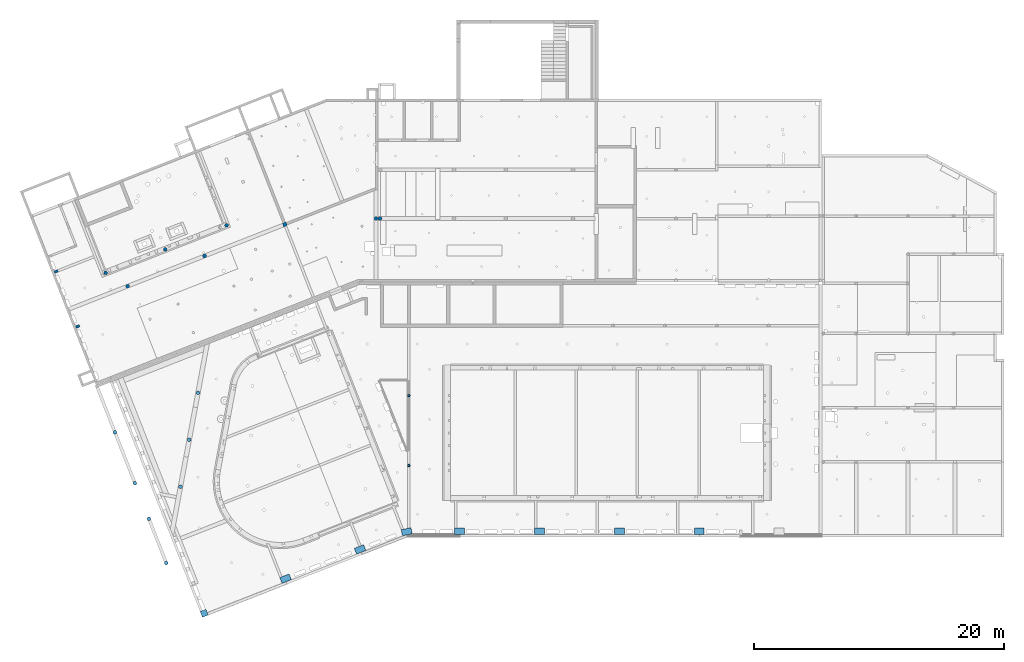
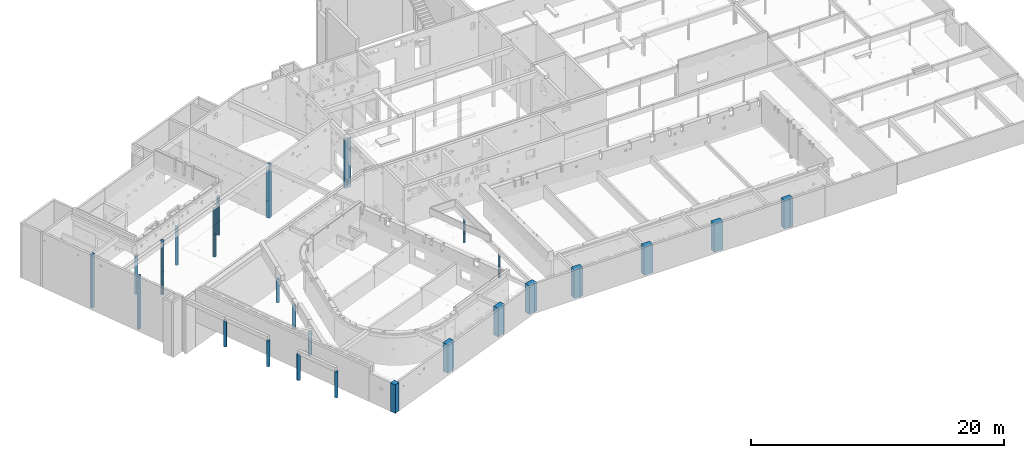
# One storey, part 1 of 28: 27 columns, 3 openings.
"""IFC2X3 building model written with IfcOpenShell, lengths in metres."""

from ifc_helpers import new_model, entity, si_unit, converted_unit, direction, frame, frame_2d, origin, origin_with_axes, place, context, subcontext, project, spatial, polyline, rectangle, circle, outline, extrude, clip, bounded_halfspace, material, element, save


model = new_model("IFC2X3")

# Units and contexts
model_context = context("Model", 3, precision=1e-05, world=origin(), true_north=direction((-0.407059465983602, -0.913401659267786)))
body_context = subcontext(model_context, "Body", "Model", "MODEL_VIEW")
ifc_project = project(units=[si_unit("LENGTHUNIT", "METRE"), si_unit("AREAUNIT", "SQUARE_METRE"), si_unit("VOLUMEUNIT", "CUBIC_METRE"), si_unit("MASSUNIT", "GRAM", prefix="KILO"), converted_unit("PLANEANGLEUNIT", "DEGREE", entity("IfcPlaneAngleMeasure", 0.0174532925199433), si_unit("PLANEANGLEUNIT", "RADIAN"), dimensions=[0, 0, 0, 0, 0, 0, 0])], contexts=[model_context])

# Site, buildings, storey
site_placement = place(None, origin())
site = spatial("IfcSite", under=ifc_project, at=site_placement, Name="Site", CompositionType="ELEMENT")
building_1_placement = place(site_placement, origin())
building_1 = spatial("IfcBuilding", under=site, at=building_1_placement, Name="Site", CompositionType="COMPLEX")
building_2_placement = place(building_1_placement, origin())
building_2 = spatial("IfcBuilding", under=building_1, at=building_2_placement, Name="Bâtiments", CompositionType="ELEMENT")
storey_placement = place(building_2_placement, frame((0.0, 0.0, -5.3)))
storey = spatial("IfcBuildingStorey", under=building_2, at=storey_placement, Name="SOUS-SOL", CompositionType="ELEMENT", Elevation=-5.3)

# Columns
ifc_material_1 = material(Name="Béton")
column_1_placement = place(storey_placement, frame((10.6839242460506, -2.77424475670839, 0.0)))
element("IfcColumn", 1, at=column_1_placement, inside=storey, material=ifc_material_1, Name="Pot 003", context=body_context, shape_type="SweptSolid", body=[
    extrude(circle(Radius=0.15, at=frame_2d((0.15, 0.15), x_axis=(1.0, 0.0))), origin_with_axes(), (0.0, 0.0, 1.0), 3.72),
])
ifc_material_2 = material(Name="Béton")
column_2_placement = place(storey_placement, frame((15.5938003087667, -0.848867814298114, 0.0)))
element("IfcColumn", 2, at=column_2_placement, inside=storey, material=ifc_material_2, Name="Pot 004", context=body_context, shape_type="Clipping", body=[
    clip(extrude(outline(polyline([(0.162916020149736, 0.299618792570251), (0.136702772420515, 0.299618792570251), (0.110887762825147, 0.29506690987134), (0.0862553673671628, 0.28610145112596), (0.0635540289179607, 0.272994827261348), (0.0434735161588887, 0.256145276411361), (0.0266239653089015, 0.236064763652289), (0.0135173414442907, 0.213363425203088), (0.00455188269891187, 0.188731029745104), (0.0, 0.162916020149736), (0.0, 0.136702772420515), (0.00455188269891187, 0.110887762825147), (0.0135173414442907, 0.0862553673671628), (0.0266239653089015, 0.0635540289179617), (0.0434735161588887, 0.0434735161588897), (0.0635540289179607, 0.0266239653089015), (0.0862553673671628, 0.0135173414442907), (0.110887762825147, 0.00455188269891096), (0.136702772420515, 0.0), (0.162916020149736, 0.0), (0.188731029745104, 0.00455188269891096), (0.213363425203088, 0.0135173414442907), (0.23606476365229, 0.0266239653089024), (0.256145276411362, 0.0434735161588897), (0.272994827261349, 0.0635540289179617), (0.28610145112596, 0.0862553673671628), (0.295066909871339, 0.110887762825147), (0.299618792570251, 0.136702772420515), (0.299618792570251, 0.162916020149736), (0.295066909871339, 0.188731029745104), (0.28610145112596, 0.213363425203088), (0.272994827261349, 0.236064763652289), (0.256145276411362, 0.256145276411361), (0.23606476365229, 0.272994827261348), (0.213363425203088, 0.28610145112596), (0.188731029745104, 0.29506690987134), (0.162916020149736, 0.299618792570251)])), origin_with_axes(), (0.0, 0.0, 1.0), 3.73), bounded_halfspace(frame((0.129300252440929, 0.156847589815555, 3.71999842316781), z_axis=(9.36380409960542e-07, -9.85054006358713e-06, -0.999999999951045), x_axis=(0.930929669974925, 0.36519850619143, -2.52175669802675e-05)), True, origin_with_axes(), polyline([(0.204640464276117, 0.171333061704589), (0.28930986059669, 0.204548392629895), (0.28610145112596, 0.213363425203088), (0.272994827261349, 0.236064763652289), (0.256145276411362, 0.256145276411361), (0.23606476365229, 0.272994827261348), (0.213363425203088, 0.28610145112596), (0.188731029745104, 0.29506690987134), (0.162916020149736, 0.299618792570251), (0.136702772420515, 0.299618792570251), (0.110887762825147, 0.29506690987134), (0.0862553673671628, 0.28610145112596), (0.0635540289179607, 0.272994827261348), (0.0434735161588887, 0.256145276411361), (0.0266239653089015, 0.236064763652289), (0.0135173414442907, 0.213363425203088), (0.00455188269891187, 0.188731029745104), (0.0, 0.162916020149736), (0.0, 0.136702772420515), (0.00455188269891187, 0.110887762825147), (0.0135173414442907, 0.0862553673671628), (0.0266239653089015, 0.0635540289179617), (0.0434735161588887, 0.0434735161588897), (0.0635540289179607, 0.0266239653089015), (0.0862553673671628, 0.0135173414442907), (0.110887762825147, 0.00455188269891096), (0.136702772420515, 0.0), (0.162916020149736, 0.0), (0.188731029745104, 0.00455188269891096), (0.213363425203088, 0.0135173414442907), (0.23606476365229, 0.0266239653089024), (0.255132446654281, 0.0426236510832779), (0.204640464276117, 0.171333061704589)]))),
])
ifc_material_3 = material(Name="Béton")
column_3_placement = place(storey_placement, frame((3.72424665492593, -8.94447723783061, 0.0)))
element("IfcColumn", 3, at=column_3_placement, inside=storey, material=ifc_material_3, Name="Pot 005", context=body_context, shape_type="SweptSolid", body=[
    extrude(rectangle(XDim=0.3, YDim=0.200000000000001, at=frame_2d((0.10311200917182, 0.147878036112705), x_axis=(0.930910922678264, 0.365246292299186))), origin_with_axes(), (0.0, 0.0, 1.0), 5.16),
])
ifc_material_4 = material(Name="Béton")
column_4_placement = place(storey_placement, frame((7.67149467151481, -5.71729069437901, 0.0)))
element("IfcColumn", 4, at=column_4_placement, inside=storey, material=ifc_material_4, Name="Pot 006", context=body_context, shape_type="Clipping", body=[
    clip(extrude(outline(polyline([(0.162916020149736, 0.299618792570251), (0.136702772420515, 0.299618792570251), (0.110887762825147, 0.29506690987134), (0.0862553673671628, 0.28610145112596), (0.0635540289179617, 0.272994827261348), (0.0434735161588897, 0.256145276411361), (0.0266239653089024, 0.236064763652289), (0.0135173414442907, 0.213363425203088), (0.00455188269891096, 0.188731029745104), (0.0, 0.162916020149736), (0.0, 0.136702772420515), (0.00455188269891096, 0.110887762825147), (0.0135173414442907, 0.0862553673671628), (0.0266239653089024, 0.0635540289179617), (0.0434735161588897, 0.0434735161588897), (0.0635540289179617, 0.0266239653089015), (0.0862553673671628, 0.0135173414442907), (0.110887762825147, 0.00455188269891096), (0.136702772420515, 0.0), (0.162916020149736, 0.0), (0.188731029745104, 0.00455188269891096), (0.213363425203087, 0.0135173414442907), (0.236064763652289, 0.0266239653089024), (0.256145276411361, 0.0434735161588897), (0.272994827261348, 0.0635540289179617), (0.28610145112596, 0.0862553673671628), (0.29506690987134, 0.110887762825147), (0.299618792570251, 0.136702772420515), (0.299618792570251, 0.162916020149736), (0.29506690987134, 0.188731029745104), (0.28610145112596, 0.213363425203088), (0.272994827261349, 0.236064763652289), (0.256145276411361, 0.256145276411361), (0.236064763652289, 0.272994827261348), (0.213363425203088, 0.28610145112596), (0.188731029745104, 0.29506690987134), (0.162916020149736, 0.299618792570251)])), origin_with_axes(), (0.0, 0.0, 1.0), 5.16), bounded_halfspace(frame((0.151352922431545, 0.146597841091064, 4.66), z_axis=(-4.34089033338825e-17, -1.62004232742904e-16, -1.0), x_axis=(-0.365388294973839, 0.930855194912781, 0.0)), True, origin_with_axes(), polyline([(0.150836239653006, 0.150212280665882), (0.096090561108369, 0.289681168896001), (0.0862553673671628, 0.28610145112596), (0.0635540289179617, 0.272994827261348), (0.0434735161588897, 0.256145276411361), (0.0266239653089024, 0.236064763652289), (0.0135173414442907, 0.213363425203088), (0.00455188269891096, 0.188731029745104), (0.0, 0.162916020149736), (0.0, 0.136702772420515), (0.00455188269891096, 0.110887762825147), (0.0135173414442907, 0.0862553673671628), (0.0266239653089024, 0.0635540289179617), (0.0434735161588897, 0.0434735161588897), (0.0635540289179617, 0.0266239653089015), (0.0862553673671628, 0.0135173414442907), (0.110887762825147, 0.00455188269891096), (0.136702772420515, 0.0), (0.162916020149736, 0.0), (0.187915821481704, 0.00440813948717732), (0.205356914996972, 0.0112542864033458), (0.205580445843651, 0.0106845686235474), (0.210008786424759, 0.0122963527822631), (0.213878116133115, 0.0138144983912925), (0.236064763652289, 0.0266239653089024), (0.256145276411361, 0.0434735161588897), (0.272994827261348, 0.0635540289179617), (0.28610145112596, 0.0862553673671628), (0.29506690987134, 0.110887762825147), (0.299618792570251, 0.136702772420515), (0.299618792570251, 0.162916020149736), (0.29506690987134, 0.188731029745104), (0.28610145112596, 0.213363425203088), (0.272994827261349, 0.236064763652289), (0.256145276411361, 0.256145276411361), (0.236064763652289, 0.272994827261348), (0.213363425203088, 0.28610145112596), (0.188731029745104, 0.29506690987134), (0.162916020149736, 0.299618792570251), (0.136702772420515, 0.299618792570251), (0.110887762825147, 0.29506690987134), (0.096112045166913, 0.289688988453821), (0.150836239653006, 0.150212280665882)]))),
])
ifc_material_5 = material(Name="Béton")
column_5_placement = place(storey_placement, frame((13.8317487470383, -3.29971822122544, 0.0)))
element("IfcColumn", 5, at=column_5_placement, inside=storey, material=ifc_material_5, Name="Pot 007", context=body_context, shape_type="Clipping", body=[
    clip(extrude(outline(polyline([(0.107572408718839, 0.29433498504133), (0.083170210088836, 0.284760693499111), (0.0608012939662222, 0.271094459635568), (0.0411453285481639, 0.253751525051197), (0.0247995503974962, 0.233258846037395), (0.0122606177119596, 0.210239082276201), (0.00390951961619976, 0.185391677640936), (0.0, 0.159471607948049), (0.000650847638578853, 0.133266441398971), (0.00584228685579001, 0.107572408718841), (0.0154165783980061, 0.0831702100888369), (0.0290828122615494, 0.0608012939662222), (0.0464257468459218, 0.0411453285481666), (0.0669184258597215, 0.024799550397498), (0.0899381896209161, 0.0122606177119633), (0.114785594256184, 0.0039095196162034), (0.140705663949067, 0.0), (0.166910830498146, 0.000650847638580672), (0.192604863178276, 0.00584228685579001), (0.217007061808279, 0.0154165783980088), (0.239375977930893, 0.0290828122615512), (0.259031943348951, 0.0464257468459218), (0.275377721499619, 0.0669184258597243), (0.287916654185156, 0.0899381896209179), (0.296267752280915, 0.114785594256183), (0.300177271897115, 0.14070566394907), (0.299526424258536, 0.166910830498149), (0.294334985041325, 0.192604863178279), (0.284760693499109, 0.217007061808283), (0.271094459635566, 0.239375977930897), (0.253751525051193, 0.259031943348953), (0.233258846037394, 0.275377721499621), (0.210239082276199, 0.287916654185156), (0.185391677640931, 0.296267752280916), (0.159471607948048, 0.300177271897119), (0.13326644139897, 0.299526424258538), (0.107572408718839, 0.29433498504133)])), origin_with_axes(), (0.0, 0.0, 1.0), 5.16), bounded_halfspace(frame((0.150098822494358, 0.150062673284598, 4.66), z_axis=(1.69545667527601e-17, -1.57860545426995e-16, -1.0), x_axis=(0.853343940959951, 0.521348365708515, 0.0)), True, origin_with_axes(), polyline([(0.217007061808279, 0.0154165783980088), (0.239375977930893, 0.0290828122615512), (0.259031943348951, 0.0464257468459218), (0.275377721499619, 0.0669184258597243), (0.287916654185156, 0.0899381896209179), (0.296267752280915, 0.114785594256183), (0.300177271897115, 0.14070566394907), (0.299526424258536, 0.166910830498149), (0.294334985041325, 0.192604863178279), (0.284760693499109, 0.217007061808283), (0.271094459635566, 0.239375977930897), (0.253751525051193, 0.259031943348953), (0.233258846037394, 0.275377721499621), (0.210239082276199, 0.287916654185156), (0.185391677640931, 0.296267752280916), (0.159471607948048, 0.300177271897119), (0.13326644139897, 0.299526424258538), (0.110406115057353, 0.2949075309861), (0.0807032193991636, 0.283253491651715), (0.0608012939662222, 0.271094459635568), (0.0411453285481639, 0.253751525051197), (0.0247995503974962, 0.233258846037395), (0.0122606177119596, 0.210239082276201), (0.00390951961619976, 0.185391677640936), (0.0, 0.159471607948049), (0.000650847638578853, 0.133266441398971), (0.00584228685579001, 0.107572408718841), (0.0154165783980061, 0.0831702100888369), (0.0290828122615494, 0.0608012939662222), (0.0464257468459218, 0.0411453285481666), (0.0669184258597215, 0.024799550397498), (0.0899381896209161, 0.0122606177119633), (0.114785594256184, 0.0039095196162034), (0.140705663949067, 0.0), (0.166910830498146, 0.000650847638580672), (0.192604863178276, 0.00584228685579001), (0.217007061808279, 0.0154165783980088)]))),
])
ifc_material_6 = material(Name="Béton")
column_6_placement = place(storey_placement, frame((20.3298481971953, -0.820840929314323, 0.0)))
element("IfcColumn", 6, at=column_6_placement, inside=storey, material=ifc_material_6, Name="Pot 008", context=body_context, shape_type="Clipping", body=[
    clip(extrude(rectangle(XDim=0.3, YDim=0.300000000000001, at=frame_2d((0.0848496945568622, 0.194423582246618), x_axis=(0.930910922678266, 0.365246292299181))), origin_with_axes(), (0.0, 0.0, 1.0), 5.16), bounded_halfspace(frame((0.0150420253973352, 0.167034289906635, 4.66), z_axis=(1.68770700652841e-15, -1.51983956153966e-16, -1.0), x_axis=(-0.3652462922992, 0.930910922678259, 0.0)), True, origin_with_axes(), polyline([(0.139657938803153, 0.054795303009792), (0.0300840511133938, 0.334068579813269), (-0.109573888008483, 0.27927327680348), (-3.18730599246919e-10, 0.0), (0.139657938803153, 0.054795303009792)]))),
])
ifc_material_7 = material(Name="Béton")
column_7_placement = place(storey_placement, frame((27.562639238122, -0.298266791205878, 0.0)))
element("IfcColumn", 7, at=column_7_placement, inside=storey, material=ifc_material_7, Name="Pot 009", context=body_context, shape_type="SweptSolid", body=[
    extrude(circle(Radius=0.15, at=frame_2d((0.15, 0.15), x_axis=(1.0, 0.0))), origin_with_axes(), (0.0, 0.0, 1.0), 4.71),
])
ifc_material_8 = material(Name="Béton")
column_8_placement = place(storey_placement, frame((27.8826390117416, -0.298267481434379, 0.0)))
element("IfcColumn", 8, at=column_8_placement, inside=storey, material=ifc_material_8, Name="Pot 017", context=body_context, shape_type="SweptSolid", body=[
    extrude(circle(Radius=0.15, at=frame_2d((0.15, 0.15), x_axis=(1.0, 0.0))), origin_with_axes(), (0.0, 0.0, 1.0), 4.68),
])
ifc_material_9 = material(Name="Béton")
column_9_placement = place(storey_placement, frame((6.65992955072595, -17.4266744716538, 2.4)))
element("IfcColumn", 9, at=column_9_placement, inside=storey, material=ifc_material_9, Name="Pot 054", context=body_context, shape_type="SweptSolid", body=[
    extrude(circle(Radius=0.149999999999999, at=frame_2d((0.149999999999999, 0.149999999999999), x_axis=(1.0, 0.0))), origin_with_axes(), (0.0, 0.0, 1.0), 2.48),
])
ifc_material_10 = material(Name="Béton")
column_10_placement = place(storey_placement, frame((8.25598090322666, -21.494533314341, 2.4)))
element("IfcColumn", 10, at=column_10_placement, inside=storey, material=ifc_material_10, Name="Pot 056", context=body_context, shape_type="SweptSolid", body=[
    extrude(circle(Radius=0.149999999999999, at=frame_2d((0.149999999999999, 0.149999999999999), x_axis=(1.0, 0.0))), origin_with_axes(), (0.0, 0.0, 1.0), 2.48),
])
ifc_material_11 = material(Name="Béton")
column_11_placement = place(storey_placement, frame((9.37557400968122, -24.3480422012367, 2.4)))
element("IfcColumn", 11, at=column_11_placement, inside=storey, material=ifc_material_11, Name="Pot 059", context=body_context, shape_type="SweptSolid", body=[
    extrude(circle(Radius=0.149999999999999, at=frame_2d((0.149999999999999, 0.149999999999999), x_axis=(1.0, 0.0))), origin_with_axes(), (0.0, 0.0, 1.0), 2.48),
])
ifc_material_12 = material(Name="Béton")
column_12_placement = place(storey_placement, frame((30.2439438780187, -20.041289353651, 2.4)))
element("IfcColumn", 12, at=column_12_placement, inside=storey, material=ifc_material_12, Name="Pot 061", context=body_context, shape_type="SweptSolid", body=[
    extrude(circle(Radius=0.0999999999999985, at=frame_2d((0.0999999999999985, 0.0999999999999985), x_axis=(1.0, 0.0))), origin_with_axes(), (0.0, 0.0, 1.0), 2.26),
])
ifc_material_13 = material(Name="Béton")
column_13_placement = place(storey_placement, frame((10.767198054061, -27.8948768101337, 2.4)))
element("IfcColumn", 13, at=column_13_placement, inside=storey, material=ifc_material_13, Name="Pot 062", context=body_context, shape_type="SweptSolid", body=[
    extrude(circle(Radius=0.149999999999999, at=frame_2d((0.149999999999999, 0.149999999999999), x_axis=(1.0, 0.0))), origin_with_axes(), (0.0, 0.0, 1.0), 2.48),
])
ifc_material_14 = material(Name="Béton")
column_14_placement = place(storey_placement, frame((46.8061574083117, -25.4449033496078, 2.4)))
element("IfcColumn", 14, at=column_14_placement, inside=storey, material=ifc_material_14, Name="Pot 069", context=body_context, shape_type="SweptSolid", body=[
    extrude(rectangle(XDim=0.799999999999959, YDim=0.500000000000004, at=frame_2d((0.400005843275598, 0.249990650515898), x_axis=(0.999999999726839, -2.33735395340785e-05))), origin_with_axes(), (0.0, 0.0, 1.0), 2.76),
])
ifc_material_15 = material(Name="Béton")
column_15_placement = place(storey_placement, frame((26.1565369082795, -27.0331782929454, 2.4)))
element("IfcColumn", 15, at=column_15_placement, inside=storey, material=ifc_material_15, Name="Pot 065", context=body_context, shape_type="SweptSolid", body=[
    extrude(rectangle(XDim=0.79999999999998, YDim=0.499999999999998, at=frame_2d((0.281051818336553, 0.378826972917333), x_axis=(0.930909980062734, 0.365248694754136))), origin_with_axes(), (0.0, 0.0, 1.0), 2.76),
])
ifc_material_16 = material(Name="Béton")
column_16_placement = place(storey_placement, frame((13.3096747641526, -14.2465340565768, 2.4)))
element("IfcColumn", 16, at=column_16_placement, inside=storey, material=ifc_material_16, Name="Pot 055", context=body_context, shape_type="SweptSolid", body=[
    extrude(circle(Radius=0.149999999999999, at=frame_2d((0.149999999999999, 0.149999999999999), x_axis=(1.0, 0.0))), origin_with_axes(), (0.0, 0.0, 1.0), 2.26),
])
ifc_material_17 = material(Name="Béton")
column_17_placement = place(storey_placement, frame((11.9041673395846, -21.7783007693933, 2.4)))
element("IfcColumn", 17, at=column_17_placement, inside=storey, material=ifc_material_17, Name="Pot 060", context=body_context, shape_type="SweptSolid", body=[
    extrude(circle(Radius=0.150000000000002, at=frame_2d((0.150000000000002, 0.150000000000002), x_axis=(1.0, 0.0))), origin_with_axes(), (0.0, 0.0, 1.0), 2.26),
])
ifc_material_18 = material(Name="Béton")
column_18_placement = place(storey_placement, frame((13.8097889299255, -32.0923501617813, 2.4)))
element("IfcColumn", 18, at=column_18_placement, inside=storey, material=ifc_material_18, Name="Pot 063", context=body_context, shape_type="SweptSolid", body=[
    extrude(rectangle(XDim=0.500000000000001, YDim=0.499999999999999, at=frame_2d((0.141415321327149, 0.324039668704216), x_axis=(0.930909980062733, 0.36524869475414))), origin_with_axes(), (0.0, 0.0, 1.0), 2.76),
])
ifc_material_19 = material(Name="Béton")
column_19_placement = place(storey_placement, frame((12.6068178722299, -18.0123981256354, 2.4)))
element("IfcColumn", 19, at=column_19_placement, inside=storey, material=ifc_material_19, Name="Pot 057", context=body_context, shape_type="SweptSolid", body=[
    extrude(circle(Radius=0.150000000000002, at=frame_2d((0.150000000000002, 0.150000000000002), x_axis=(1.0, 0.0))), origin_with_axes(), (0.0, 0.0, 1.0), 2.26),
])
ifc_material_20 = material(Name="Béton")
column_20_placement = place(storey_placement, frame((34.0084354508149, -25.4449033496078, 2.4)))
element("IfcColumn", 20, at=column_20_placement, inside=storey, material=ifc_material_20, Name="Pot 067", context=body_context, shape_type="SweptSolid", body=[
    extrude(rectangle(XDim=0.799999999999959, YDim=0.499999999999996, at=frame_2d((0.400005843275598, 0.249990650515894), x_axis=(0.999999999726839, -2.33735395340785e-05))), origin_with_axes(), (0.0, 0.0, 1.0), 2.76),
])
ifc_material_21 = material(Name="Béton")
column_21_placement = place(storey_placement, frame((30.2439661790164, -14.437637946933, 2.4)))
element("IfcColumn", 21, at=column_21_placement, inside=storey, material=ifc_material_21, Name="Pot 058", context=body_context, shape_type="SweptSolid", body=[
    extrude(circle(Radius=0.1, at=frame_2d((0.1, 0.1), x_axis=(1.0, 0.0))), origin_with_axes(), (0.0, 0.0, 1.0), 2.26),
])
ifc_material_22 = material(Name="Béton")
column_22_placement = place(storey_placement, frame((1.99663169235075, -4.54126857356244, 0.0)))
element("IfcColumn", 22, at=column_22_placement, inside=storey, material=ifc_material_22, Name="Pot 001", context=body_context, shape_type="SweptSolid", body=[
    extrude(rectangle(XDim=0.3, YDim=0.2, at=frame_2d((0.10311200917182, 0.147878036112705), x_axis=(0.930910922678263, 0.365246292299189))), origin_with_axes(), (0.0, 0.0, 1.0), 5.16),
])
ifc_material_23 = material(Name="Béton")
column_23_placement = place(storey_placement, frame((5.91082582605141, -4.64698692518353, 0.0)))
element("IfcColumn", 23, at=column_23_placement, inside=storey, material=ifc_material_23, Name="Pot 002", context=body_context, shape_type="SweptSolid", body=[
    extrude(circle(Radius=0.15, at=frame_2d((0.15, 0.15), x_axis=(1.0, 0.0))), origin_with_axes(), (0.0, 0.0, 1.0), 3.72),
])

# Column, opening
ifc_material_24 = material(Name="Béton")
column_24_placement = place(storey_placement, frame((53.204989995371, -25.4449033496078, 2.4)))
column_24 = element("IfcColumn", 24, at=column_24_placement, inside=storey, material=ifc_material_24, Name="Pot 070", context=body_context, shape_type="SweptSolid", body=[
    extrude(rectangle(XDim=0.799999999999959, YDim=0.500000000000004, at=frame_2d((0.400005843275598, 0.249990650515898), x_axis=(0.999999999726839, -2.33735395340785e-05))), origin_with_axes(), (0.0, 0.0, 1.0), 2.76),
])
opening_1_placement = place(column_24_placement, frame((0.499981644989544, 0.499988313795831, 2.21), z_axis=(-2.33735388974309e-05, -0.999999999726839, 0.0), x_axis=(0.0, 0.0, 1.0)))
element("IfcOpeningElement", 25, at=opening_1_placement, cuts=column_24, Name="Percement dans mur", ObjectType="Opening", context=body_context, shape_type="SweptSolid", body=[
    extrude(outline(polyline([(0.0, 0.2), (0.35, 0.2), (0.35, 0.0), (0.0, 0.0), (0.0, 0.2)])), origin_with_axes(), (0.0, 0.0, 1.0), 0.200000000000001),
])

ifc_material_25 = material(Name="Béton")
column_25_placement = place(storey_placement, frame((40.407249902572, -25.4449033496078, 2.4)))
column_25 = element("IfcColumn", 26, at=column_25_placement, inside=storey, material=ifc_material_25, Name="Pot 068", context=body_context, shape_type="SweptSolid", body=[
    extrude(rectangle(XDim=0.799999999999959, YDim=0.500000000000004, at=frame_2d((0.400005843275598, 0.249990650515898), x_axis=(0.999999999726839, -2.33735395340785e-05))), origin_with_axes(), (0.0, 0.0, 1.0), 2.76),
])
opening_2_placement = place(column_25_placement, frame((0.499981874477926, 0.500007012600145, 2.21), z_axis=(-2.33735388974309e-05, -0.999999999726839, 0.0), x_axis=(0.0, 0.0, 1.0)))
element("IfcOpeningElement", 27, at=opening_2_placement, cuts=column_25, Name="Percement dans mur", ObjectType="Opening", context=body_context, shape_type="SweptSolid", body=[
    extrude(outline(polyline([(0.0, 0.2), (0.35, 0.2), (0.35, 0.0), (0.0, 0.0), (0.0, 0.2)])), origin_with_axes(), (0.0, 0.0, 1.0), 0.200000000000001),
])

# Column
ifc_material_26 = material(Name="Béton")
column_26_placement = place(storey_placement, frame((29.8297581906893, -25.5631095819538, 2.4)))
element("IfcColumn", 28, at=column_26_placement, inside=storey, material=ifc_material_26, Name="Pot 66", context=body_context, shape_type="Clipping", body=[
    clip(extrude(rectangle(XDim=0.799999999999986, YDim=0.499999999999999, at=frame_2d((0.341622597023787, 0.325259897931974), x_axis=(0.97961354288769, 0.200891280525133))), origin_with_axes(), (0.0, 0.0, 1.0), 2.76), bounded_halfspace(frame((-0.0651946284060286, 0.491224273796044, 2.36), z_axis=(0.0, 0.0, -1.0), x_axis=(-0.979613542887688, -0.200891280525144, 0.0)), True, origin_with_axes(), polyline([(-0.00102372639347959, 0.510195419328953), (-0.100445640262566, 0.489806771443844), (-0.0941145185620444, 0.473670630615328), (-0.00102372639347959, 0.510195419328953)]))),
])

# Column, opening
ifc_material_27 = material(Name="Béton")
column_27_placement = place(storey_placement, frame((20.1918511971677, -29.3734622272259, 2.4)))
column_27 = element("IfcColumn", 29, at=column_27_placement, inside=storey, material=ifc_material_27, Name="Pot 064", context=body_context, shape_type="SweptSolid", body=[
    extrude(rectangle(XDim=0.799999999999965, YDim=0.499999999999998, at=frame_2d((0.281051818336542, 0.378826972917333), x_axis=(0.930909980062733, 0.365248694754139))), origin_with_axes(), (0.0, 0.0, 1.0), 2.76),
])
opening_3_placement = place(column_27_placement, frame((0.282830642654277, 0.648079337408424, 2.21), z_axis=(0.365248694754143, -0.930909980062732, 0.0), x_axis=(0.0, 0.0, 1.0)))
element("IfcOpeningElement", 30, at=opening_3_placement, cuts=column_27, Name="Percement dans mur", ObjectType="Opening", context=body_context, shape_type="SweptSolid", body=[
    extrude(outline(polyline([(0.0, 0.199999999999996), (0.35, 0.199999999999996), (0.35, 0.0), (0.0, 0.0), (0.0, 0.199999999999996)])), origin_with_axes(), (0.0, 0.0, 1.0), 0.199999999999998),
])

save(model, "model.ifc")
